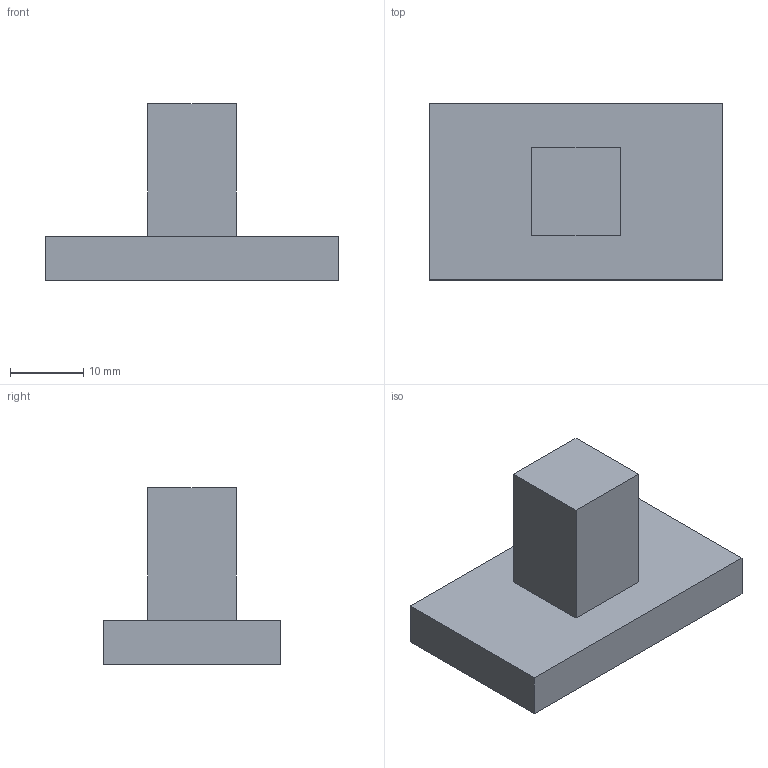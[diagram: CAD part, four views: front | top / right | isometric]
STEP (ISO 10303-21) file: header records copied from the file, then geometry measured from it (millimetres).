
FILE_DESCRIPTION(('pmix synthetic fixture: an assembly of two different parts, each placed once'),'2;1');
FILE_NAME('assembly_two_parts.stp','2026-09-10T00:00:00',('pmix'),('pmix'),'pmix synthetic','pmix','');
FILE_SCHEMA(('AP242_MANAGED_MODEL_BASED_3D_ENGINEERING_MIM_LF { 1 0 10303 442 3 1 4 }'));
Length unit declared in the file: millimetre
Products named in the file (3): SYN-ASM-2; SYN-PLATE; SYN-BLOCK
Assembly tree (2 placements, depth 2):
  SYN-ASM-2
    SYN-PLATE
    SYN-BLOCK
Bounding box: 40 x 24 x 24 mm (x, y, z)
Volume: 8352 mm3; surface area: 3840 mm2
Topology: 2 solids, 2 shells, 12 faces, 24 edges, 16 vertices
Faces by surface type: plane 12
Entity records: 358 total; most frequent: DIRECTION 62, CARTESIAN_POINT 59, ORIENTED_EDGE 48, VECTOR 24, LINE 24, EDGE_CURVE 24, AXIS2_PLACEMENT_3D 19, VERTEX_POINT 16
